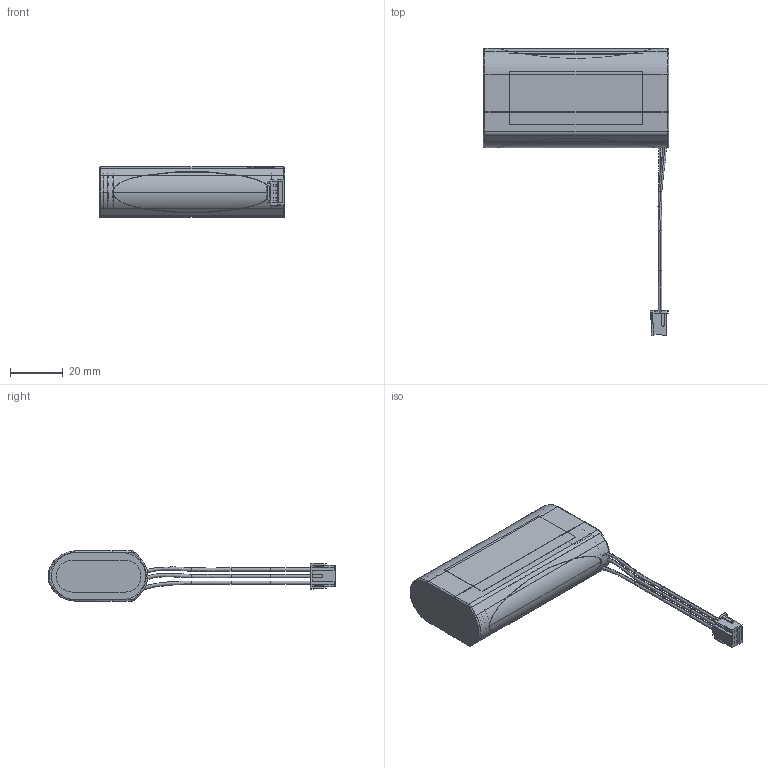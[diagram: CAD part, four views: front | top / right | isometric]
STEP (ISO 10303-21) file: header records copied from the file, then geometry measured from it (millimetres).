
FILE_DESCRIPTION((''),'2;1');
FILE_NAME('15012922Z_DMEC_28002319_PO4-2B','2019-02-11T10:41:36',('juergen.hrach'),(''),'CREO PARAMETRIC BY PTC INC, 2017380','CREO PARAMETRIC BY PTC INC, 2017380','');
FILE_SCHEMA(('AUTOMOTIVE_DESIGN { 1 0 10303 214 1 1 1 1 }'));
Length unit declared in the file: millimetre
Products named in the file (1): 15012922Z_DMEC_28002319_PO4-2B
Bounding box: 69.98 x 108.47 x 19.18 mm (x, y, z)
Volume: 36839.5 mm3; surface area: 43232.3 mm2
Topology: 7 solids, 12 shells, 684 faces, 1759 edges, 1102 vertices
Faces by surface type: plane 330, cylinder 210, torus 86, bspline 54, cone 4
Entity records: 28274 total; most frequent: CARTESIAN_POINT 10055, ORIENTED_EDGE 3518, DIRECTION 3469, EDGE_CURVE 1759, AXIS2_PLACEMENT_3D 1237, VERTEX_POINT 1102, VECTOR 995, LINE 995
